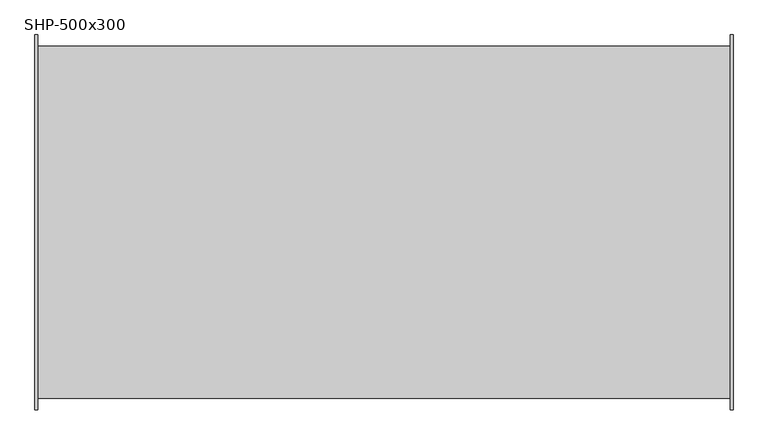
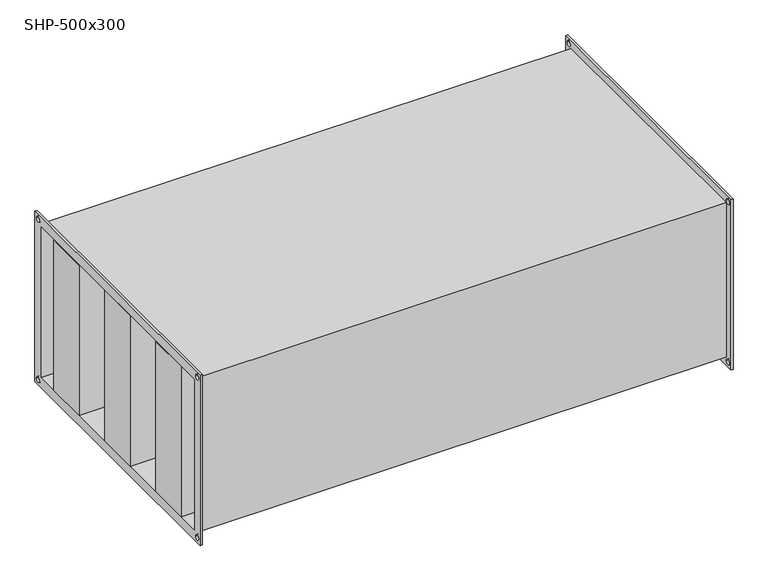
"""IFC4 building model written with IfcOpenShell, lengths in millimetres: damper geometry, СВ_Шумоглушитель_КанальныйПрямоугольный_200-1000_SHP : SHP-500x300."""

from ifc_helpers import new_model, si_unit, frame, origin, place, context, project, spatial, polyline, circle_curve, outline, extrude, source, transform, mapped, element, save
from ifc_brep_helpers import plane_surface, revolved_surface, advanced_brep


def shp_500x300_1f269637(model_context):
    return source(origin(), model_context, "Body", "SolidModel", [
        extrude(outline(polyline([(502.5, 208.3333333), (502.5, 125.0), (-502.5, 125.0), (-502.5, 208.3333333), (502.5, 208.3333333)])), frame((0.0, 0.0, -150.0), z_axis=(0.0, 0.0, 1.0), x_axis=(1.0, 0.0, 0.0)), (0.0, 0.0, 1.0), 300.0),
        extrude(outline(polyline([(502.5, 41.6666667), (502.5, -41.6666667), (-502.5, -41.6666667), (-502.5, 41.6666667), (502.5, 41.6666667)])), frame((0.0, 0.0, -150.0), z_axis=(0.0, 0.0, 1.0), x_axis=(1.0, 0.0, 0.0)), (0.0, 0.0, 1.0), 300.0),
        extrude(outline(polyline([(502.5, -125.0), (502.5, -208.3333333), (-502.5, -208.3333333), (-502.5, -125.0), (502.5, -125.0)])), frame((0.0, 0.0, -150.0), z_axis=(0.0, 0.0, 1.0), x_axis=(1.0, 0.0, 0.0)), (0.0, 0.0, 1.0), 300.0),
        advanced_brep(
        [(498.5, -254.0, 154.0), (-498.5, -254.0, 154.0), (-498.5, -254.0, -154.0), (498.5, -254.0, -154.0), (-498.5, 254.0, -154.0), (498.5, 254.0, -154.0), (-498.5, 254.0, 154.0), (498.5, 254.0, 154.0), (-502.5, -270.0, 170.0), (-502.5, 270.0, 170.0), (-502.5, 270.0, -170.0), (-502.5, -270.0, -170.0), (-502.5, -250.0, 150.0), (-502.5, -250.0, -150.0), (-502.5, 250.0, -150.0), (-502.5, 250.0, 150.0), (-502.5, 255.0, 160.0), (-502.5, 265.0, 160.0), (-502.5, -265.0, 160.0), (-502.5, -255.0, 160.0), (-502.5, -265.0, -160.0), (-502.5, -255.0, -160.0), (-502.5, 255.0, -160.0), (-502.5, 265.0, -160.0), (-498.5, -270.0, 170.0), (-498.5, -270.0, -170.0), (-498.5, 270.0, -170.0), (-498.5, 270.0, 170.0), (-498.5, 265.0, 160.0), (-498.5, 255.0, 160.0), (-498.5, -255.0, 160.0), (-498.5, -265.0, 160.0), (-498.5, -255.0, -160.0), (-498.5, -265.0, -160.0), (-498.5, 265.0, -160.0), (-498.5, 255.0, -160.0), (498.5, 270.0, 170.0), (498.5, 270.0, -170.0), (498.5, -270.0, -170.0), (498.5, -270.0, 170.0), (498.5, 255.0, 160.0), (498.5, 265.0, 160.0), (498.5, -265.0, 160.0), (498.5, -255.0, 160.0), (498.5, -265.0, -160.0), (498.5, -255.0, -160.0), (498.5, 255.0, -160.0), (498.5, 265.0, -160.0), (502.5, 270.0, 170.0), (502.5, -270.0, 170.0), (502.5, -270.0, -170.0), (502.5, 270.0, -170.0), (502.5, 250.0, 150.0), (502.5, 250.0, -150.0), (502.5, -250.0, -150.0), (502.5, -250.0, 150.0), (502.5, 265.0, 160.0), (502.5, 255.0, 160.0), (502.5, -255.0, 160.0), (502.5, -265.0, 160.0), (502.5, -255.0, -160.0), (502.5, -265.0, -160.0), (502.5, 265.0, -160.0), (502.5, 255.0, -160.0)],
        [
            (0, 1),
            (1, 2),
            (2, 3),
            (3, 0),
            (2, 4),
            (4, 5),
            (5, 3),
            (4, 6),
            (6, 7),
            (7, 5),
            (0, 7),
            (6, 1),
            (8, 9),
            (9, 10),
            (10, 11),
            (11, 8),
            (12, 13),
            (13, 14),
            (14, 15),
            (15, 12),
            (16, 17, circle_curve(frame((-502.5, 260.0, 160.0), z_axis=(1.0, 0.0, 0.0), x_axis=(0.0, 1.0, 0.0)), 5.0)),
            (17, 16, circle_curve(frame((-502.5, 260.0, 160.0), z_axis=(1.0, 0.0, 0.0), x_axis=(0.0, 1.0, 0.0)), 5.0)),
            (18, 19, circle_curve(frame((-502.5, -260.0, 160.0), z_axis=(1.0, 0.0, 0.0), x_axis=(0.0, 1.0, 0.0)), 5.0)),
            (19, 18, circle_curve(frame((-502.5, -260.0, 160.0), z_axis=(1.0, 0.0, 0.0), x_axis=(0.0, 1.0, 0.0)), 5.0)),
            (20, 21, circle_curve(frame((-502.5, -260.0, -160.0), z_axis=(1.0, 0.0, 0.0), x_axis=(0.0, 1.0, 0.0)), 5.0)),
            (21, 20, circle_curve(frame((-502.5, -260.0, -160.0), z_axis=(1.0, 0.0, 0.0), x_axis=(0.0, 1.0, 0.0)), 5.0)),
            (22, 23, circle_curve(frame((-502.5, 260.0, -160.0), z_axis=(1.0, 0.0, 0.0), x_axis=(0.0, 1.0, 0.0)), 5.0)),
            (23, 22, circle_curve(frame((-502.5, 260.0, -160.0), z_axis=(1.0, 0.0, 0.0), x_axis=(0.0, 1.0, 0.0)), 5.0)),
            (24, 25),
            (25, 26),
            (26, 27),
            (27, 24),
            (28, 29, circle_curve(frame((-498.5, 260.0, 160.0), z_axis=(-1.0, 0.0, 0.0), x_axis=(0.0, 1.0, 0.0)), 5.0)),
            (29, 28, circle_curve(frame((-498.5, 260.0, 160.0), z_axis=(-1.0, 0.0, 0.0), x_axis=(0.0, 1.0, 0.0)), 5.0)),
            (30, 31, circle_curve(frame((-498.5, -260.0, 160.0), z_axis=(-1.0, 0.0, 0.0), x_axis=(0.0, 1.0, 0.0)), 5.0)),
            (31, 30, circle_curve(frame((-498.5, -260.0, 160.0), z_axis=(-1.0, 0.0, 0.0), x_axis=(0.0, 1.0, 0.0)), 5.0)),
            (32, 33, circle_curve(frame((-498.5, -260.0, -160.0), z_axis=(-1.0, 0.0, 0.0), x_axis=(0.0, 1.0, 0.0)), 5.0)),
            (33, 32, circle_curve(frame((-498.5, -260.0, -160.0), z_axis=(-1.0, 0.0, 0.0), x_axis=(0.0, 1.0, 0.0)), 5.0)),
            (34, 35, circle_curve(frame((-498.5, 260.0, -160.0), z_axis=(-1.0, 0.0, 0.0), x_axis=(0.0, 1.0, 0.0)), 5.0)),
            (35, 34, circle_curve(frame((-498.5, 260.0, -160.0), z_axis=(-1.0, 0.0, 0.0), x_axis=(0.0, 1.0, 0.0)), 5.0)),
            (11, 25),
            (24, 8),
            (10, 26),
            (9, 27),
            (36, 37),
            (37, 38),
            (38, 39),
            (39, 36),
            (40, 41, circle_curve(frame((498.5, 260.0, 160.0), z_axis=(1.0, 0.0, 0.0), x_axis=(0.0, 1.0, 0.0)), 5.0)),
            (41, 40, circle_curve(frame((498.5, 260.0, 160.0), z_axis=(1.0, 0.0, 0.0), x_axis=(0.0, 1.0, 0.0)), 5.0)),
            (42, 43, circle_curve(frame((498.5, -260.0, 160.0), z_axis=(1.0, 0.0, 0.0), x_axis=(0.0, 1.0, 0.0)), 5.0)),
            (43, 42, circle_curve(frame((498.5, -260.0, 160.0), z_axis=(1.0, 0.0, 0.0), x_axis=(0.0, 1.0, 0.0)), 5.0)),
            (44, 45, circle_curve(frame((498.5, -260.0, -160.0), z_axis=(1.0, 0.0, 0.0), x_axis=(0.0, 1.0, 0.0)), 5.0)),
            (45, 44, circle_curve(frame((498.5, -260.0, -160.0), z_axis=(1.0, 0.0, 0.0), x_axis=(0.0, 1.0, 0.0)), 5.0)),
            (46, 47, circle_curve(frame((498.5, 260.0, -160.0), z_axis=(1.0, 0.0, 0.0), x_axis=(0.0, 1.0, 0.0)), 5.0)),
            (47, 46, circle_curve(frame((498.5, 260.0, -160.0), z_axis=(1.0, 0.0, 0.0), x_axis=(0.0, 1.0, 0.0)), 5.0)),
            (48, 49),
            (49, 50),
            (50, 51),
            (51, 48),
            (52, 53),
            (53, 54),
            (54, 55),
            (55, 52),
            (56, 57, circle_curve(frame((502.5, 260.0, 160.0), z_axis=(-1.0, 0.0, 0.0), x_axis=(0.0, 1.0, 0.0)), 5.0)),
            (57, 56, circle_curve(frame((502.5, 260.0, 160.0), z_axis=(-1.0, 0.0, 0.0), x_axis=(0.0, 1.0, 0.0)), 5.0)),
            (58, 59, circle_curve(frame((502.5, -260.0, 160.0), z_axis=(-1.0, 0.0, 0.0), x_axis=(0.0, 1.0, 0.0)), 5.0)),
            (59, 58, circle_curve(frame((502.5, -260.0, 160.0), z_axis=(-1.0, 0.0, 0.0), x_axis=(0.0, 1.0, 0.0)), 5.0)),
            (60, 61, circle_curve(frame((502.5, -260.0, -160.0), z_axis=(-1.0, 0.0, 0.0), x_axis=(0.0, 1.0, 0.0)), 5.0)),
            (61, 60, circle_curve(frame((502.5, -260.0, -160.0), z_axis=(-1.0, 0.0, 0.0), x_axis=(0.0, 1.0, 0.0)), 5.0)),
            (62, 63, circle_curve(frame((502.5, 260.0, -160.0), z_axis=(-1.0, 0.0, 0.0), x_axis=(0.0, 1.0, 0.0)), 5.0)),
            (63, 62, circle_curve(frame((502.5, 260.0, -160.0), z_axis=(-1.0, 0.0, 0.0), x_axis=(0.0, 1.0, 0.0)), 5.0)),
            (39, 49),
            (48, 36),
            (38, 50),
            (37, 51),
            (15, 52),
            (55, 12),
            (14, 53),
            (13, 54),
            (16, 29),
            (28, 17),
            (40, 57),
            (56, 41),
            (18, 31),
            (30, 19),
            (42, 59),
            (58, 43),
            (20, 33),
            (32, 21),
            (44, 61),
            (60, 45),
            (22, 35),
            (34, 23),
            (46, 63),
            (62, 47),
        ],
        [
            plane_surface(frame((498.5, -254.0, 154.0), z_axis=(0.0, -1.0, 0.0), x_axis=(-1.0, 0.0, 0.0))),
            plane_surface(frame((498.5, -254.0, -154.0), z_axis=(0.0, 0.0, -1.0), x_axis=(-1.0, 0.0, 0.0))),
            plane_surface(frame((498.5, 254.0, -154.0), z_axis=(0.0, 1.0, 0.0), x_axis=(-1.0, 0.0, 0.0))),
            plane_surface(frame((498.5, 254.0, 154.0), z_axis=(0.0, 0.0, 1.0), x_axis=(-1.0, 0.0, 0.0))),
            plane_surface(frame((-502.5, -270.0, 170.0), z_axis=(-1.0, 0.0, 0.0), x_axis=(0.0, 0.0, 1.0))),
            plane_surface(frame((-498.5, -270.0, 170.0), z_axis=(1.0, 0.0, 0.0), x_axis=(0.0, 0.0, -1.0))),
            plane_surface(frame((-498.5, -270.0, 170.0), z_axis=(0.0, -1.0, 0.0), x_axis=(-1.0, 0.0, 0.0))),
            plane_surface(frame((-498.5, -270.0, -170.0), z_axis=(0.0, 0.0, -1.0), x_axis=(-1.0, 0.0, 0.0))),
            plane_surface(frame((-498.5, 270.0, -170.0), z_axis=(0.0, 1.0, 0.0), x_axis=(-1.0, 0.0, 0.0))),
            plane_surface(frame((-498.5, 270.0, 170.0), z_axis=(0.0, 0.0, 1.0), x_axis=(-1.0, 0.0, 0.0))),
            plane_surface(frame((498.5, 250.0, -150.0), z_axis=(-1.0, 0.0, 0.0), x_axis=(0.0, 0.0, 1.0))),
            plane_surface(frame((502.5, 250.0, -150.0), z_axis=(1.0, 0.0, 0.0), x_axis=(0.0, 0.0, -1.0))),
            plane_surface(frame((502.5, 270.0, 170.0), z_axis=(0.0, 0.0, 1.0), x_axis=(-1.0, 0.0, 0.0))),
            plane_surface(frame((502.5, -270.0, 170.0), z_axis=(0.0, -1.0, 0.0), x_axis=(-1.0, 0.0, 0.0))),
            plane_surface(frame((502.5, -270.0, -170.0), z_axis=(0.0, 0.0, -1.0), x_axis=(-1.0, 0.0, 0.0))),
            plane_surface(frame((502.5, 270.0, -170.0), z_axis=(0.0, 1.0, 0.0), x_axis=(-1.0, 0.0, 0.0))),
            plane_surface(frame((-498.5, -250.0, 150.0), z_axis=(0.0, 0.0, -1.0), x_axis=(-1.0, 0.0, 0.0))),
            plane_surface(frame((-498.5, 250.0, 150.0), z_axis=(0.0, -1.0, 0.0), x_axis=(-1.0, 0.0, 0.0))),
            plane_surface(frame((-498.5, 250.0, -150.0), z_axis=(0.0, 0.0, 1.0), x_axis=(-1.0, 0.0, 0.0))),
            plane_surface(frame((-498.5, -250.0, -150.0), z_axis=(0.0, 1.0, 0.0), x_axis=(-1.0, 0.0, 0.0))),
            revolved_surface(polyline([(-498.5, 265.0, 160.0), (-502.5, 265.0, 160.0)]), (-502.5, 260.0, 160.0), (1.0, 0.0, 0.0)),
            revolved_surface(polyline([(502.5, 265.0, 160.0), (498.5, 265.0, 160.0)]), (-502.5, 260.0, 160.0), (1.0, 0.0, 0.0)),
            revolved_surface(polyline([(-498.5, -255.0, 160.0), (-502.5, -255.0, 160.0)]), (0.0, -260.0, 160.0), (1.0, 0.0, 0.0)),
            revolved_surface(polyline([(502.5, -255.0, 160.0), (498.5, -255.0, 160.0)]), (0.0, -260.0, 160.0), (1.0, 0.0, 0.0)),
            revolved_surface(polyline([(-498.5, -255.0, -160.0), (-502.5, -255.0, -160.0)]), (0.0, -260.0, -160.0), (1.0, 0.0, 0.0)),
            revolved_surface(polyline([(502.5, -255.0, -160.0), (498.5, -255.0, -160.0)]), (0.0, -260.0, -160.0), (1.0, 0.0, 0.0)),
            revolved_surface(polyline([(-498.5, 265.0, -160.0), (-502.5, 265.0, -160.0)]), (0.0, 260.0, -160.0), (1.0, 0.0, 0.0)),
            revolved_surface(polyline([(502.5, 265.0, -160.0), (498.5, 265.0, -160.0)]), (0.0, 260.0, -160.0), (1.0, 0.0, 0.0)),
        ],
        [
            (0, [[1, 2, 3, 4]]),
            (1, [[-3, 5, 6, 7]]),
            (2, [[-6, 8, 9, 10]]),
            (3, [[-1, 11, -9, 12]]),
            (4, [[13, 14, 15, 16], [17, 18, 19, 20], [21, 22], [23, 24], [25, 26], [27, 28]]),
            (5, [[29, 30, 31, 32], [-2, -12, -8, -5], [33, 34], [35, 36], [37, 38], [39, 40]]),
            (6, [[-16, 41, -29, 42]]),
            (7, [[-15, 43, -30, -41]]),
            (8, [[-14, 44, -31, -43]]),
            (9, [[-13, -42, -32, -44]]),
            (10, [[45, 46, 47, 48], [-4, -7, -10, -11], [49, 50], [51, 52], [53, 54], [55, 56]]),
            (11, [[57, 58, 59, 60], [61, 62, 63, 64], [65, 66], [67, 68], [69, 70], [71, 72]]),
            (12, [[-48, 73, -57, 74]]),
            (13, [[-47, 75, -58, -73]]),
            (14, [[-46, 76, -59, -75]]),
            (15, [[-45, -74, -60, -76]]),
            (16, [[-20, 77, -64, 78]]),
            (17, [[-77, -19, 79, -61]]),
            (18, [[-79, -18, 80, -62]]),
            (19, [[-80, -17, -78, -63]]),
            (20, [[81, -33, 82, -21]]),
            (21, [[83, -65, 84, -49]]),
            (20, [[-81, -22, -82, -34]]),
            (21, [[-83, -50, -84, -66]]),
            (22, [[85, -35, 86, -23]]),
            (23, [[87, -67, 88, -51]]),
            (22, [[-85, -24, -86, -36]]),
            (23, [[-87, -52, -88, -68]]),
            (24, [[89, -37, 90, -25]]),
            (25, [[91, -69, 92, -53]]),
            (24, [[-89, -26, -90, -38]]),
            (25, [[-91, -54, -92, -70]]),
            (26, [[93, -39, 94, -27]]),
            (27, [[95, -71, 96, -55]]),
            (26, [[-93, -28, -94, -40]]),
            (27, [[-95, -56, -96, -72]]),
        ],
    ),
    ])


if __name__ == "__main__":
    model = new_model("IFC4")
    model_context = context("Model", 3, world=origin())
    ifc_project = project(units=[si_unit("LENGTHUNIT", "METRE", prefix="MILLI")], contexts=[model_context])
    site = spatial("IfcSite", under=ifc_project)
    building = spatial("IfcBuilding", under=site)
    placement = place(None, origin())
    shp_500x300_shape = shp_500x300_1f269637(model_context)
    element("IfcDamper", 1, ObjectType="СВ_Шумоглушитель_КанальныйПрямоугольный_200-1000_SHP : SHP-500x300", at=placement, inside=building, context=model_context, shape_type="MappedRepresentation", body=[
        mapped(shp_500x300_shape, transform((0.0, 0.0, 0.0), x_axis=(1.0, 0.0, 0.0), y_axis=(0.0, 1.0, 0.0), z_axis=(0.0, 0.0, 1.0))),
    ])
    save(model, "model.ifc")
